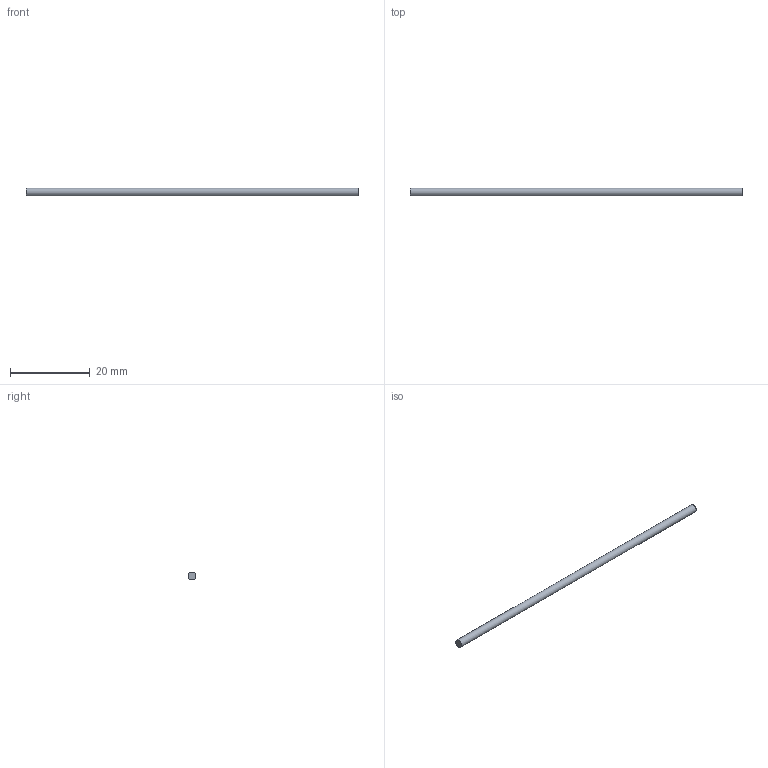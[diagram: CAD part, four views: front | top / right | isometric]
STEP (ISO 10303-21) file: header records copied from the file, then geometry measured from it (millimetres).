
FILE_DESCRIPTION(('Open CASCADE Model'),'2;1');
FILE_NAME('Open CASCADE Shape Model','2026-09-09T10:24:07',('Author'),( 'Open CASCADE'),'Open CASCADE STEP processor 7.8','Open CASCADE 7.8' ,'Unknown');
FILE_SCHEMA(('AUTOMOTIVE_DESIGN { 1 0 10303 214 1 1 1 1 }'));
Length unit declared in the file: millimetre
Products named in the file (1): Open CASCADE STEP translator 7.8 5
Bounding box: 83.44 x 2 x 2 mm (x, y, z)
Volume: 262.1 mm3; surface area: 530.6 mm2
Topology: 1 solids, 1 shells, 3 faces, 3 edges, 2 vertices
Faces by surface type: plane 2, cylinder 1
Full cylindrical faces by diameter (mm): 2 x1
Entity records: 108 total; most frequent: DIRECTION 19, CARTESIAN_POINT 15, AXIS2_PLACEMENT_3D 6, ORIENTED_EDGE 6, PCURVE 6, DEFINITIONAL_REPRESENTATION 6, LINE 5, VECTOR 5
